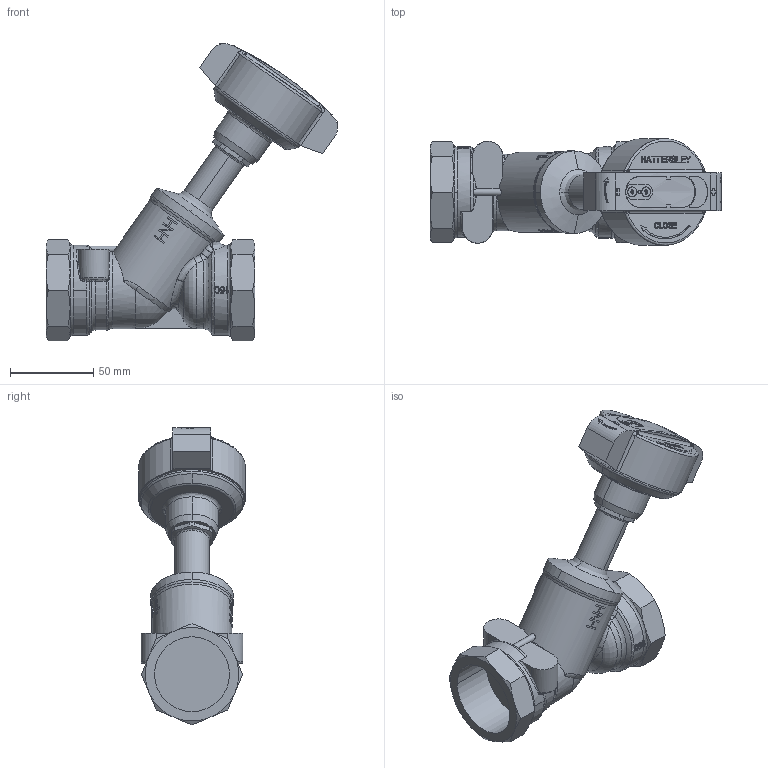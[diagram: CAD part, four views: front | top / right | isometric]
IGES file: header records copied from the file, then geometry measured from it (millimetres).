
Global section: file name: No Iges File Name specified; native system: AutoDesk Inventor R12.0; preprocessor: AutoDesk Inventor Iges Exporter R12.0; date: 20110307.151700; units: millimetre
Bounding box: 174.83 x 63.85 x 178.27 mm (x, y, z)
Volume: 405657.3 mm3; surface area: 56082.4 mm2
Topology: 1 solids, 1 shells, 706 faces, 1855 edges, 1198 vertices
Faces by surface type: plane 302, bspline 257, cylinder 67, cone 45, revolution 19, torus 14, sphere 2
